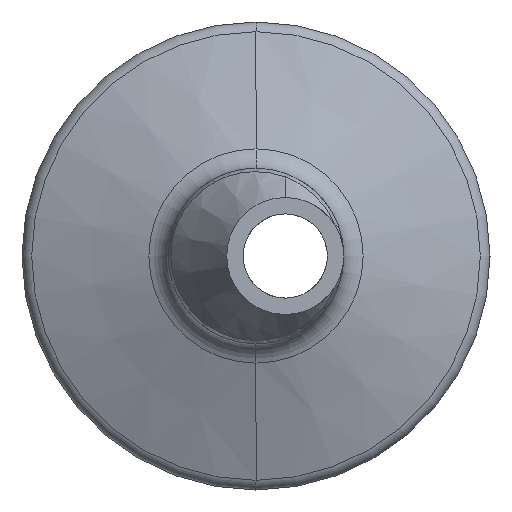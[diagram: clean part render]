
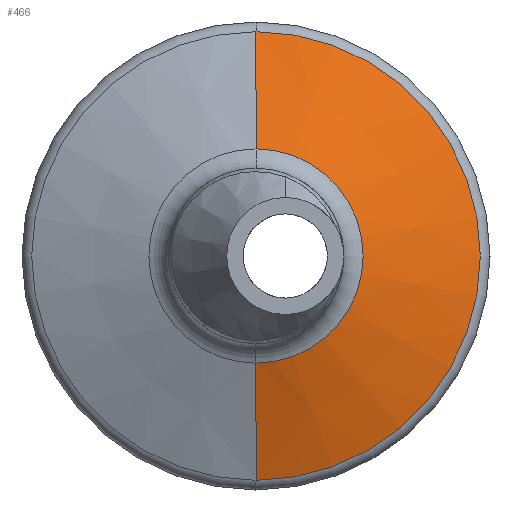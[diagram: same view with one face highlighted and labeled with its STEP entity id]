
A CAD part, left-side view. The second image highlights one B-rep face of the part: STEP entity #466.
In plain terms, the highlighted conical face has half-angle 70 degrees and reference radius 5.815 mm.
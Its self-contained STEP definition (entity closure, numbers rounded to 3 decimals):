
#13 = EDGE_CURVE ( 'NONE', #741, #1093, #1066, .T. ) ;
#119 = VECTOR ( 'NONE', #1203, 1000. ) ;
#177 = AXIS2_PLACEMENT_3D ( 'NONE', #728, #802, #916 ) ;
#187 = DIRECTION ( 'NONE',  ( -1., 0., 0. ) ) ;
#226 = ORIENTED_EDGE ( 'NONE', *, *, #1481, .T. ) ;
#229 = DIRECTION ( 'NONE',  ( 0.342, 0., 0.94 ) ) ;
#270 = ORIENTED_EDGE ( 'NONE', *, *, #625, .T. ) ;
#339 = CONICAL_SURFACE ( 'NONE', #524, 5.815, 1.222 ) ;
#347 = DIRECTION ( 'NONE',  ( 0., 0., 1. ) ) ;
#461 = ORIENTED_EDGE ( 'NONE', *, *, #1394, .F. ) ;
#466 = ADVANCED_FACE ( 'NONE', ( #744 ), #339, .T. ) ;
#524 = AXIS2_PLACEMENT_3D ( 'NONE', #663, #678, #667 ) ;
#592 = CARTESIAN_POINT ( 'NONE',  ( 20.882, 0., 5.815 ) ) ;
#604 = EDGE_LOOP ( 'NONE', ( #820, #461, #270, #226 ) ) ;
#625 = EDGE_CURVE ( 'NONE', #1021, #1043, #760, .T. ) ;
#636 = CARTESIAN_POINT ( 'NONE',  ( 20.882, 0., -5.815 ) ) ;
#645 = CARTESIAN_POINT ( 'NONE',  ( 23.196, 0., -12.174 ) ) ;
#663 = CARTESIAN_POINT ( 'NONE',  ( 20.882, 0., 0. ) ) ;
#667 = DIRECTION ( 'NONE',  ( 0., 0., -1. ) ) ;
#678 = DIRECTION ( 'NONE',  ( 1., 0., 0. ) ) ;
#728 = CARTESIAN_POINT ( 'NONE',  ( 20.882, 0., 0. ) ) ;
#741 = VERTEX_POINT ( 'NONE', #1535 ) ;
#744 = FACE_OUTER_BOUND ( 'NONE', #604, .T. ) ;
#756 = CARTESIAN_POINT ( 'NONE',  ( 23.196, 0., 12.174 ) ) ;
#760 = LINE ( 'NONE', #1191, #119 ) ;
#802 = DIRECTION ( 'NONE',  ( -1., 0., 0. ) ) ;
#820 = ORIENTED_EDGE ( 'NONE', *, *, #13, .F. ) ;
#916 = DIRECTION ( 'NONE',  ( 0., 0., 1. ) ) ;
#981 = CIRCLE ( 'NONE', #998, 12.174 ) ;
#998 = AXIS2_PLACEMENT_3D ( 'NONE', #1023, #187, #347 ) ;
#1021 = VERTEX_POINT ( 'NONE', #636 ) ;
#1023 = CARTESIAN_POINT ( 'NONE',  ( 23.196, 0., 0. ) ) ;
#1043 = VERTEX_POINT ( 'NONE', #645 ) ;
#1066 = LINE ( 'NONE', #592, #1097 ) ;
#1088 = CIRCLE ( 'NONE', #177, 5.815 ) ;
#1093 = VERTEX_POINT ( 'NONE', #756 ) ;
#1097 = VECTOR ( 'NONE', #229, 1000. ) ;
#1191 = CARTESIAN_POINT ( 'NONE',  ( 20.882, 0., -5.815 ) ) ;
#1203 = DIRECTION ( 'NONE',  ( 0.342, 0., -0.94 ) ) ;
#1394 = EDGE_CURVE ( 'NONE', #1021, #741, #1088, .T. ) ;
#1481 = EDGE_CURVE ( 'NONE', #1043, #1093, #981, .T. ) ;
#1535 = CARTESIAN_POINT ( 'NONE',  ( 20.882, 0., 5.815 ) ) ;
